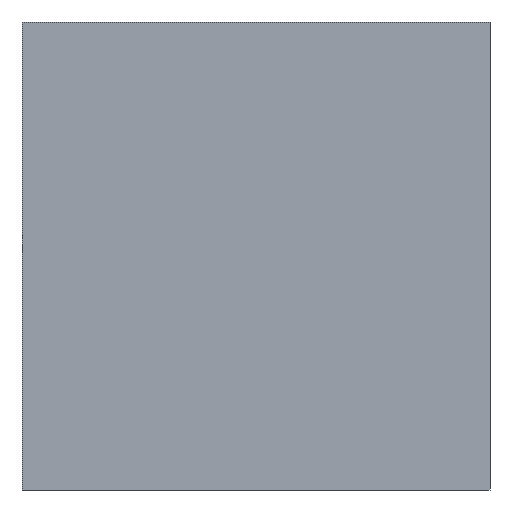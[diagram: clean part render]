
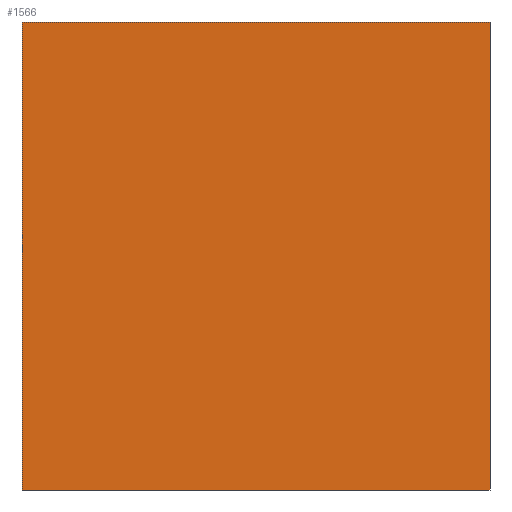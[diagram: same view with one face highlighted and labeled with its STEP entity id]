
A CAD part, left-side view. The second image highlights one B-rep face of the part: STEP entity #1566.
In plain terms, the highlighted planar face has unit normal (-1, 0, 0).
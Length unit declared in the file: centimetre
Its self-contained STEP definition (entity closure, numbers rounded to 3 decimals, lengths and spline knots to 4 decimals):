
#217 = LINE ( 'NONE', #503, #1812 ) ;
#220 = DIRECTION ( 'NONE',  ( 0., 0., -1. ) ) ;
#222 = DIRECTION ( 'NONE',  ( 1., 0., 0. ) ) ;
#304 = CARTESIAN_POINT ( 'NONE',  ( 0., 1000., 1000. ) ) ;
#360 = CARTESIAN_POINT ( 'NONE',  ( 0., 1000., 1000. ) ) ;
#419 = CARTESIAN_POINT ( 'NONE',  ( 0., 0., 0. ) ) ;
#475 = ORIENTED_EDGE ( 'NONE', *, *, #1858, .T. ) ;
#487 = FACE_OUTER_BOUND ( 'NONE', #1215, .T. ) ;
#503 = CARTESIAN_POINT ( 'NONE',  ( 0., 0., 1000. ) ) ;
#518 = VERTEX_POINT ( 'NONE', #360 ) ;
#566 = EDGE_CURVE ( 'NONE', #518, #1789, #974, .T. ) ;
#588 = DIRECTION ( 'NONE',  ( 0., -1., 0. ) ) ;
#637 = LINE ( 'NONE', #1074, #734 ) ;
#734 = VECTOR ( 'NONE', #1555, 100. ) ;
#750 = VERTEX_POINT ( 'NONE', #419 ) ;
#771 = VECTOR ( 'NONE', #588, 100. ) ;
#872 = CARTESIAN_POINT ( 'NONE',  ( 0., 0., 1000. ) ) ;
#918 = VERTEX_POINT ( 'NONE', #872 ) ;
#974 = LINE ( 'NONE', #1680, #1150 ) ;
#1074 = CARTESIAN_POINT ( 'NONE',  ( 0., 1000., 0. ) ) ;
#1104 = EDGE_CURVE ( 'NONE', #518, #918, #1614, .T. ) ;
#1150 = VECTOR ( 'NONE', #220, 100. ) ;
#1211 = CARTESIAN_POINT ( 'NONE',  ( 0., 1000., 0. ) ) ;
#1215 = EDGE_LOOP ( 'NONE', ( #475, #1226, #1780, #1584 ) ) ;
#1226 = ORIENTED_EDGE ( 'NONE', *, *, #1895, .F. ) ;
#1379 = DIRECTION ( 'NONE',  ( 0., 0., -1. ) ) ;
#1387 = PLANE ( 'NONE',  #1549 ) ;
#1511 = CARTESIAN_POINT ( 'NONE',  ( 0., 1000., 1000. ) ) ;
#1546 = DIRECTION ( 'NONE',  ( 0., 0., -1. ) ) ;
#1549 = AXIS2_PLACEMENT_3D ( 'NONE', #1511, #222, #1379 ) ;
#1555 = DIRECTION ( 'NONE',  ( 0., -1., 0. ) ) ;
#1566 = ADVANCED_FACE ( 'NONE', ( #487 ), #1387, .F. ) ;
#1584 = ORIENTED_EDGE ( 'NONE', *, *, #566, .T. ) ;
#1614 = LINE ( 'NONE', #304, #771 ) ;
#1680 = CARTESIAN_POINT ( 'NONE',  ( 0., 1000., 1000. ) ) ;
#1780 = ORIENTED_EDGE ( 'NONE', *, *, #1104, .F. ) ;
#1789 = VERTEX_POINT ( 'NONE', #1211 ) ;
#1812 = VECTOR ( 'NONE', #1546, 100. ) ;
#1858 = EDGE_CURVE ( 'NONE', #1789, #750, #637, .T. ) ;
#1895 = EDGE_CURVE ( 'NONE', #918, #750, #217, .T. ) ;
